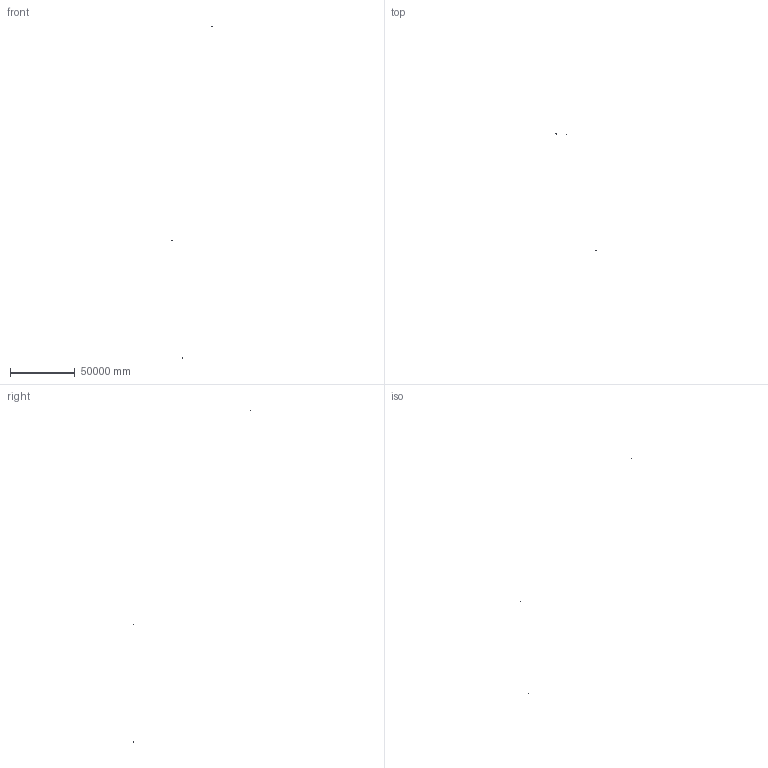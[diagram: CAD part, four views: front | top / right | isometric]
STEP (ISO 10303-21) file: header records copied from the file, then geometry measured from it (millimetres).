
FILE_DESCRIPTION (( 'STEP AP214' ), '1' );
FILE_NAME ('CUYUE.MS309-2³ÉÆ·.STEP', '2026-06-29T03:00:00', ( '' ), ( '' ), 'SwSTEP 2.0', 'SolidWorks 2020', '' );
FILE_SCHEMA (( 'AUTOMOTIVE_DESIGN' ));
Length unit declared in the file: millimetre
Products named in the file (17): CUYUE.M4x10郪磁蹟隊; CUYUE.M10蹟譫; 坶忕^CUYUE.MS309-2蚾饜极; CUYUE.MS309-2粟銅; CUYUE.M4粟菜; CUYUE.M10-喘菜; CUYUE.种粣; CUYUE.MS309-2 M10蹟翐; 密封圈^CUYUE.MS309-2装配体; CUYUE.MS309-2躇猾菜; 孔用弹性挡圈16; CUYUE.L杶; CUYUE.忒梟假蚾釱; CUYUE.MS309-2傖こ; CUYUE.MS309-2忒梟; CUYUE.M4菜え; CUYUE.M4x20坋趼埴芛蹟隊
Assembly tree (21 placements, depth 3):
  CUYUE.MS309-2傖こ
    CUYUE.L杶
    CUYUE.MS309-2 M10蹟翐
    CUYUE.MS309-2粟銅
    CUYUE.MS309-2躇猾菜
    CUYUE.MS309-2忒梟
    CUYUE.忒梟假蚾釱
    密封圈^CUYUE.MS309-2装配体
    CUYUE.M4x10郪磁蹟隊  x2
      CUYUE.M4粟菜
      CUYUE.M4x20坋趼埴芛蹟隊
      CUYUE.M4菜え
    CUYUE.M10蹟譫  x2
    CUYUE.M10-喘菜  x2
    坶忕^CUYUE.MS309-2蚾饜极  x2
    孔用弹性挡圈16
    CUYUE.种粣  x2
Bounding box: 31012.02 x 90330.92 x 257354.11 mm (x, y, z)
Volume: 32897.2 mm3; surface area: 28161.9 mm2
Topology: 23 solids, 23 shells, 1044 faces, 2849 edges, 1818 vertices
Faces by surface type: cylinder 435, bspline 309, plane 206, cone 46, sphere 32, torus 16
Entity records: 181034 total; most frequent: CARTESIAN_POINT 162861, ORIENTED_EDGE 4384, DIRECTION 2792, EDGE_CURVE 2192, VERTEX_POINT 1412, AXIS2_PLACEMENT_3D 1050, EDGE_LOOP 852, ADVANCED_FACE 813
